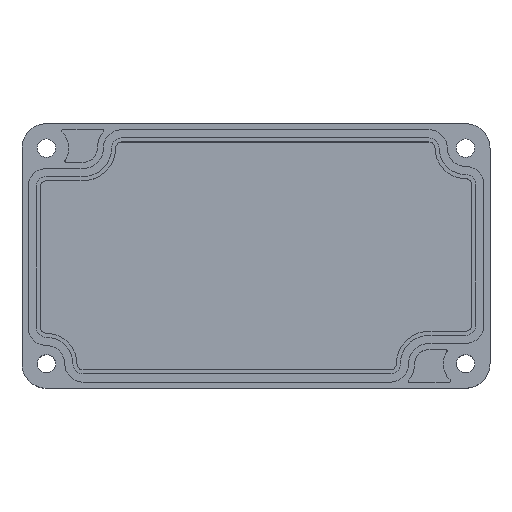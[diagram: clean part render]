
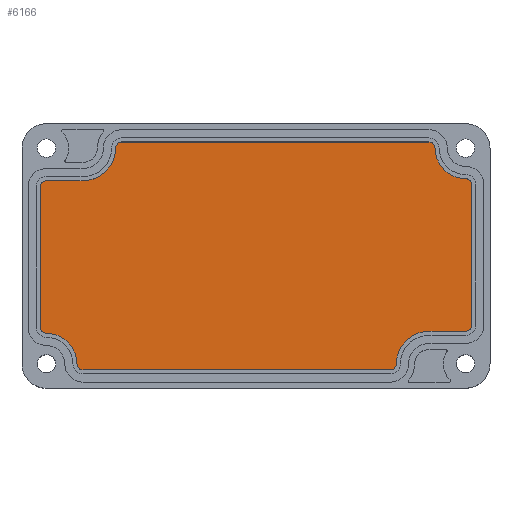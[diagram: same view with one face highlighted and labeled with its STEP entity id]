
A CAD part, top view. The second image highlights one B-rep face of the part: STEP entity #6166.
In plain terms, the highlighted planar face has unit normal (0, 0, 1).
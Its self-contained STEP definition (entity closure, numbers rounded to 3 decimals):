
#303=PLANE('',#6688);
#606=FACE_OUTER_BOUND('',#972,.T.);
#972=EDGE_LOOP('',(#5493,#5494,#5495,#5496,#5497,#5498,#5499,#5500,#5501,
#5502,#5503,#5504,#5505,#5506,#5507,#5508,#5509,#5510));
#1581=LINE('',#10053,#2239);
#1585=LINE('',#10065,#2243);
#1590=LINE('',#10083,#2248);
#1597=LINE('',#10113,#2255);
#1602=LINE('',#10131,#2260);
#1606=LINE('',#10143,#2264);
#2239=VECTOR('',#8115,10.);
#2243=VECTOR('',#8127,10.);
#2248=VECTOR('',#8146,10.);
#2255=VECTOR('',#8179,10.);
#2260=VECTOR('',#8198,10.);
#2264=VECTOR('',#8210,10.);
#2474=CIRCLE('',#6625,1.5);
#2476=CIRCLE('',#6629,1.501);
#2478=CIRCLE('',#6633,7.999);
#2480=CIRCLE('',#6636,1.5);
#2482=CIRCLE('',#6640,1.5);
#2484=CIRCLE('',#6643,7.5);
#2486=CIRCLE('',#6646,7.5);
#2488=CIRCLE('',#6649,1.499);
#2490=CIRCLE('',#6653,1.501);
#2492=CIRCLE('',#6656,8.);
#2494=CIRCLE('',#6660,1.498);
#2496=CIRCLE('',#6664,1.498);
#3018=VERTEX_POINT('',#10043);
#3019=VERTEX_POINT('',#10044);
#3022=VERTEX_POINT('',#10052);
#3024=VERTEX_POINT('',#10058);
#3026=VERTEX_POINT('',#10064);
#3028=VERTEX_POINT('',#10070);
#3030=VERTEX_POINT('',#10076);
#3032=VERTEX_POINT('',#10082);
#3034=VERTEX_POINT('',#10088);
#3036=VERTEX_POINT('',#10094);
#3038=VERTEX_POINT('',#10100);
#3040=VERTEX_POINT('',#10106);
#3042=VERTEX_POINT('',#10112);
#3044=VERTEX_POINT('',#10118);
#3046=VERTEX_POINT('',#10124);
#3048=VERTEX_POINT('',#10130);
#3050=VERTEX_POINT('',#10136);
#3052=VERTEX_POINT('',#10142);
#3828=EDGE_CURVE('',#3018,#3019,#2474,.T.);
#3832=EDGE_CURVE('',#3022,#3018,#1581,.T.);
#3835=EDGE_CURVE('',#3024,#3022,#2476,.T.);
#3838=EDGE_CURVE('',#3026,#3024,#1585,.T.);
#3841=EDGE_CURVE('',#3028,#3026,#2478,.T.);
#3844=EDGE_CURVE('',#3030,#3028,#2480,.T.);
#3847=EDGE_CURVE('',#3032,#3030,#1590,.T.);
#3850=EDGE_CURVE('',#3034,#3032,#2482,.T.);
#3853=EDGE_CURVE('',#3036,#3034,#2484,.T.);
#3856=EDGE_CURVE('',#3019,#3038,#2486,.T.);
#3859=EDGE_CURVE('',#3038,#3040,#2488,.T.);
#3862=EDGE_CURVE('',#3040,#3042,#1597,.T.);
#3865=EDGE_CURVE('',#3042,#3044,#2490,.T.);
#3868=EDGE_CURVE('',#3044,#3046,#2492,.T.);
#3871=EDGE_CURVE('',#3046,#3048,#1602,.T.);
#3874=EDGE_CURVE('',#3048,#3050,#2494,.T.);
#3877=EDGE_CURVE('',#3050,#3052,#1606,.T.);
#3880=EDGE_CURVE('',#3052,#3036,#2496,.T.);
#5493=ORIENTED_EDGE('',*,*,#3850,.T.);
#5494=ORIENTED_EDGE('',*,*,#3847,.T.);
#5495=ORIENTED_EDGE('',*,*,#3844,.T.);
#5496=ORIENTED_EDGE('',*,*,#3841,.T.);
#5497=ORIENTED_EDGE('',*,*,#3838,.T.);
#5498=ORIENTED_EDGE('',*,*,#3835,.T.);
#5499=ORIENTED_EDGE('',*,*,#3832,.T.);
#5500=ORIENTED_EDGE('',*,*,#3828,.T.);
#5501=ORIENTED_EDGE('',*,*,#3856,.T.);
#5502=ORIENTED_EDGE('',*,*,#3859,.T.);
#5503=ORIENTED_EDGE('',*,*,#3862,.T.);
#5504=ORIENTED_EDGE('',*,*,#3865,.T.);
#5505=ORIENTED_EDGE('',*,*,#3868,.T.);
#5506=ORIENTED_EDGE('',*,*,#3871,.T.);
#5507=ORIENTED_EDGE('',*,*,#3874,.T.);
#5508=ORIENTED_EDGE('',*,*,#3877,.T.);
#5509=ORIENTED_EDGE('',*,*,#3880,.T.);
#5510=ORIENTED_EDGE('',*,*,#3853,.T.);
#6166=ADVANCED_FACE('',(#606),#303,.T.);
#6625=AXIS2_PLACEMENT_3D('',#10045,#8107,#8108);
#6629=AXIS2_PLACEMENT_3D('',#10059,#8120,#8121);
#6633=AXIS2_PLACEMENT_3D('',#10071,#8132,#8133);
#6636=AXIS2_PLACEMENT_3D('',#10077,#8139,#8140);
#6640=AXIS2_PLACEMENT_3D('',#10089,#8151,#8152);
#6643=AXIS2_PLACEMENT_3D('',#10095,#8158,#8159);
#6646=AXIS2_PLACEMENT_3D('',#10101,#8165,#8166);
#6649=AXIS2_PLACEMENT_3D('',#10107,#8172,#8173);
#6653=AXIS2_PLACEMENT_3D('',#10119,#8184,#8185);
#6656=AXIS2_PLACEMENT_3D('',#10125,#8191,#8192);
#6660=AXIS2_PLACEMENT_3D('',#10137,#8203,#8204);
#6664=AXIS2_PLACEMENT_3D('',#10148,#8215,#8216);
#6688=AXIS2_PLACEMENT_3D('',#10202,#8277,#8278);
#8107=DIRECTION('center_axis',(0.,0.,1.));
#8108=DIRECTION('ref_axis',(1.,0.,0.));
#8115=DIRECTION('',(0.,1.,0.));
#8120=DIRECTION('center_axis',(0.,0.,1.));
#8121=DIRECTION('ref_axis',(0.002,-1.,0.));
#8127=DIRECTION('',(1.,0.,0.));
#8132=DIRECTION('center_axis',(0.,0.,-1.));
#8133=DIRECTION('ref_axis',(0.,1.,0.));
#8139=DIRECTION('center_axis',(0.,0.,1.));
#8140=DIRECTION('ref_axis',(0.,-1.,0.));
#8146=DIRECTION('',(1.,0.,0.));
#8151=DIRECTION('center_axis',(0.,0.,1.));
#8152=DIRECTION('ref_axis',(-1.,0.,0.));
#8158=DIRECTION('center_axis',(0.,0.,-1.));
#8159=DIRECTION('ref_axis',(1.,0.,0.));
#8165=DIRECTION('center_axis',(0.,0.,-1.));
#8166=DIRECTION('ref_axis',(-1.,0.,0.));
#8172=DIRECTION('center_axis',(0.,0.,1.));
#8173=DIRECTION('ref_axis',(1.,0.,0.));
#8179=DIRECTION('',(-1.,0.,0.));
#8184=DIRECTION('center_axis',(0.,0.,1.));
#8185=DIRECTION('ref_axis',(-0.001,1.,0.));
#8191=DIRECTION('center_axis',(0.,0.,-1.));
#8192=DIRECTION('ref_axis',(0.,-1.,0.));
#8198=DIRECTION('',(-1.,-0.001,0.));
#8203=DIRECTION('center_axis',(0.,0.,1.));
#8204=DIRECTION('ref_axis',(0.,1.,0.));
#8210=DIRECTION('',(0.,-1.,0.));
#8215=DIRECTION('center_axis',(0.,0.,1.));
#8216=DIRECTION('ref_axis',(-1.,-0.001,0.));
#8277=DIRECTION('center_axis',(0.,0.,1.));
#8278=DIRECTION('ref_axis',(1.,0.,0.));
#10043=CARTESIAN_POINT('',(343.529,231.108,4.));
#10044=CARTESIAN_POINT('',(342.029,232.608,4.));
#10045=CARTESIAN_POINT('Origin',(342.029,231.108,4.));
#10052=CARTESIAN_POINT('',(343.529,196.608,4.));
#10053=CARTESIAN_POINT('',(343.529,196.608,4.));
#10058=CARTESIAN_POINT('',(342.03,195.106,4.));
#10059=CARTESIAN_POINT('Origin',(342.027,196.608,4.));
#10064=CARTESIAN_POINT('',(333.028,195.106,4.));
#10065=CARTESIAN_POINT('',(333.028,195.106,4.));
#10070=CARTESIAN_POINT('',(325.029,187.108,4.));
#10071=CARTESIAN_POINT('Origin',(333.028,187.107,4.));
#10076=CARTESIAN_POINT('',(323.529,185.608,4.));
#10077=CARTESIAN_POINT('Origin',(323.529,187.107,4.));
#10082=CARTESIAN_POINT('',(248.029,185.608,4.));
#10083=CARTESIAN_POINT('',(248.029,185.608,4.));
#10088=CARTESIAN_POINT('',(246.529,187.108,4.));
#10089=CARTESIAN_POINT('Origin',(248.029,187.108,4.));
#10094=CARTESIAN_POINT('',(239.029,194.608,4.));
#10095=CARTESIAN_POINT('Origin',(239.029,187.108,4.));
#10100=CARTESIAN_POINT('',(334.529,240.108,4.));
#10101=CARTESIAN_POINT('Origin',(342.029,240.108,4.));
#10106=CARTESIAN_POINT('',(333.028,241.608,4.));
#10107=CARTESIAN_POINT('Origin',(333.029,240.108,4.));
#10112=CARTESIAN_POINT('',(257.527,241.608,4.));
#10113=CARTESIAN_POINT('',(333.028,241.608,4.));
#10118=CARTESIAN_POINT('',(256.029,240.108,4.));
#10119=CARTESIAN_POINT('Origin',(257.529,240.107,4.));
#10124=CARTESIAN_POINT('',(248.029,232.108,4.));
#10125=CARTESIAN_POINT('Origin',(248.029,240.108,4.));
#10130=CARTESIAN_POINT('',(239.029,232.099,4.));
#10131=CARTESIAN_POINT('',(248.029,232.108,4.));
#10136=CARTESIAN_POINT('',(237.531,230.606,4.));
#10137=CARTESIAN_POINT('Origin',(239.028,230.601,4.));
#10142=CARTESIAN_POINT('',(237.531,196.106,4.));
#10143=CARTESIAN_POINT('',(237.531,230.606,4.));
#10148=CARTESIAN_POINT('Origin',(239.029,196.107,4.));
#10202=CARTESIAN_POINT('Origin',(290.529,213.607,4.));
